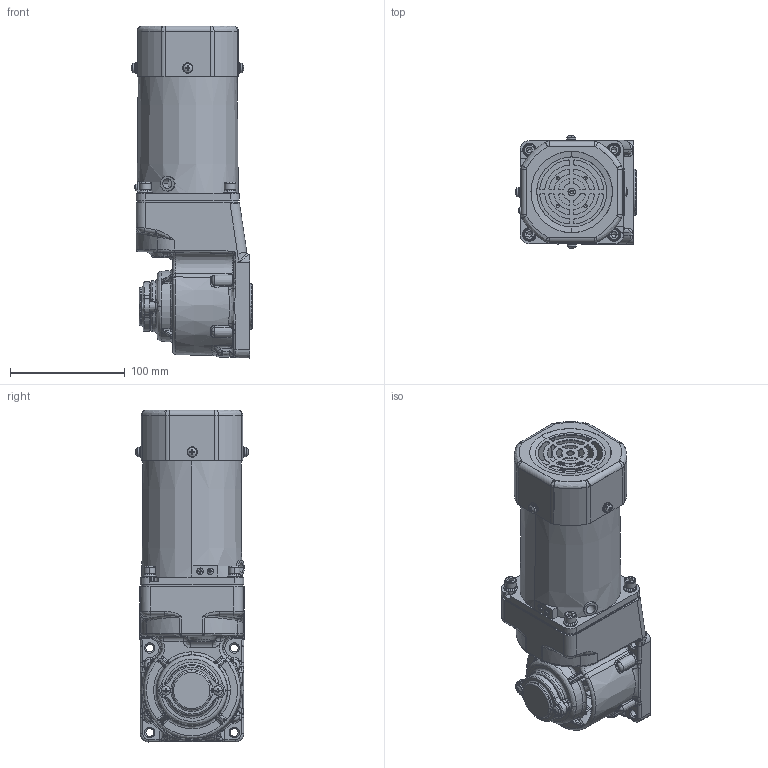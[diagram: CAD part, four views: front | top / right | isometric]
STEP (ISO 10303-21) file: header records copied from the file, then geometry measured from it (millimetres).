
FILE_DESCRIPTION (( 'STEP AP203' ), '1' );
FILE_NAME ('5IK90RGU-CF(5GU3RC-180RC)ÐÂ.STEP', '2022-02-23T08:06:00', ( 'PC' ), ( 'Microsoft' ), 'SwSTEP 2.0', 'SolidWorks 2014', '' );
FILE_SCHEMA (( 'CONFIG_CONTROL_DESIGN' ));
Length unit declared in the file: millimetre
Products named in the file (8): 5IK90RGU-CF(5GU3RC-180RC)陔; 90妗陑俋倛芞; 90RT妗陑怀堤傷裔; 90諾陑怀堤粣; hexagon socket head cap screws gb_GB_FASTENER_SCREWS_HSHCS M5X12-N; ZD-5GU50RC-505-003綴傷裔1; cross recessed pan head screws gb_GB_CROSS_SCREWS_TYPE1 M4X6-6  H type-N; 5IK90RGU-CF(5GU3RT-180RT)
Assembly tree (11 placements, depth 2):
  5IK90RGU-CF(5GU3RC-180RC)陔
    90妗陑俋倛芞
    90RT妗陑怀堤傷裔
    90諾陑怀堤粣
    hexagon socket head cap screws gb_GB_FASTENER_SCREWS_HSHCS M5X12-N  x4
    ZD-5GU50RC-505-003綴傷裔1
    cross recessed pan head screws gb_GB_CROSS_SCREWS_TYPE1 M4X6-6  H type-N  x2
    5IK90RGU-CF(5GU3RT-180RT)
Bounding box: 106 x 98.11 x 289.04 mm (x, y, z)
Volume: 1566181.3 mm3; surface area: 210816.1 mm2
Topology: 41 solids, 41 shells, 2219 faces, 5498 edges, 3305 vertices
Faces by surface type: plane 658, cylinder 559, bspline 502, cone 413, torus 83, sphere 4
Entity records: 90683 total; most frequent: CARTESIAN_POINT 43357, ORIENTED_EDGE 10292, DIRECTION 8962, EDGE_CURVE 5146, AXIS2_PLACEMENT_3D 3551, VERTEX_POINT 3162, EDGE_LOOP 2266, ADVANCED_FACE 2119
